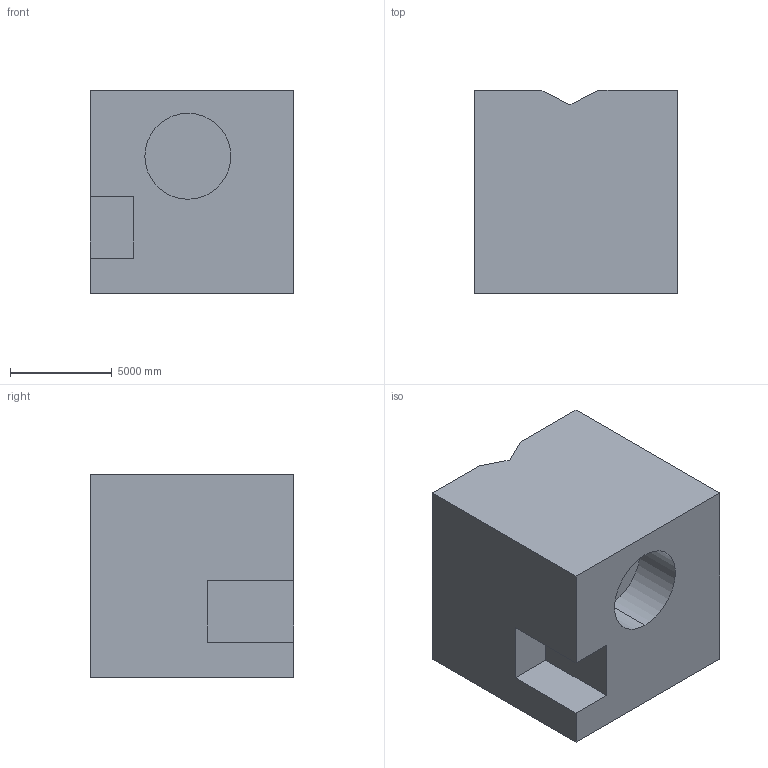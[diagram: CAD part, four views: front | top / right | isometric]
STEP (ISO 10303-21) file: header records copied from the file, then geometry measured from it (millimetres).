
FILE_DESCRIPTION (( 'STEP AP203' ), '1' );
FILE_NAME ('232.STEP', '2022-07-28T13:59:16', ( 'user' ), ( '' ), 'SwSTEP 2.0', 'SolidWorks 2021', '' );
FILE_SCHEMA (( 'CONFIG_CONTROL_DESIGN' ));
Length unit declared in the file: centimetre
Products named in the file (1): 232
Bounding box: 10000 x 10000 x 10000 mm (x, y, z)
Volume: 928152977766.2 mm3; surface area: 651966408.1 mm2
Topology: 1 solids, 1 shells, 16 faces, 39 edges, 26 vertices
Faces by surface type: plane 14, cylinder 2
Entity records: 544 total; most frequent: CARTESIAN_POINT 82, ORIENTED_EDGE 78, DIRECTION 77, EDGE_CURVE 39, VECTOR 35, LINE 35, VERTEX_POINT 26, AXIS2_PLACEMENT_3D 21
